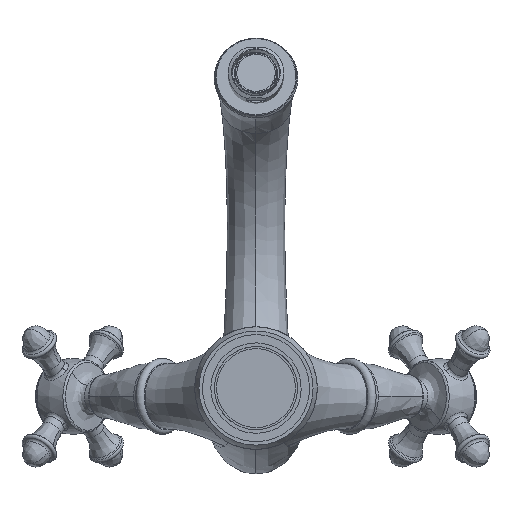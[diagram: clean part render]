
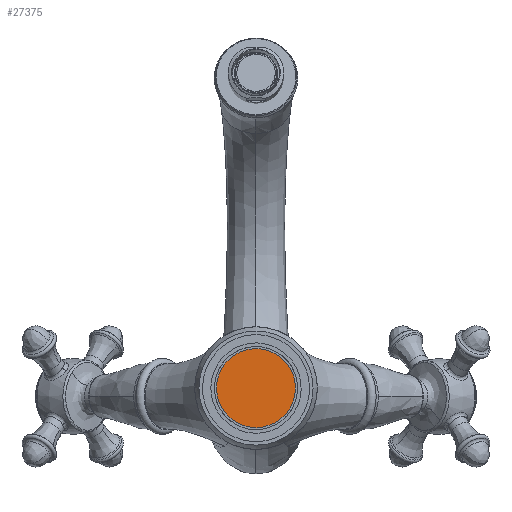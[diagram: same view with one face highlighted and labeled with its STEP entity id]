
A CAD part, front view. The second image highlights one B-rep face of the part: STEP entity #27375.
In plain terms, the highlighted planar face has unit normal (0, -1, 0).
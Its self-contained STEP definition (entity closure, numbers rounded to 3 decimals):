
#4248=B_SPLINE_CURVE_WITH_KNOTS('',3,(#45753,#45754,#45755,#45756,#45757,
#45758,#45759,#45760,#45761,#45762,#45763,#45764,#45765,#45766,#45767,#45768,
#45769,#45770,#45771),.UNSPECIFIED.,.F.,.F.,(4,1,1,1,1,1,1,1,1,1,1,1,1,
1,1,1,4),(-1.,-0.936,-0.873,-0.809,-0.746,
-0.682,-0.618,-0.555,-0.491,-0.43,
-0.368,-0.307,-0.246,-0.184,-0.123,
-0.061,0.),.UNSPECIFIED.);
#4249=B_SPLINE_CURVE_WITH_KNOTS('',3,(#45772,#45773,#45774,#45775,#45776,
#45777,#45778,#45779,#45780,#45781,#45782,#45783,#45784,#45785,#45786,#45787,
#45788,#45789,#45790),.UNSPECIFIED.,.F.,.F.,(4,1,1,1,1,1,1,1,1,1,1,1,1,
1,1,1,4),(-1.,-0.936,-0.873,-0.809,-0.746,
-0.682,-0.618,-0.555,-0.491,-0.43,
-0.368,-0.307,-0.246,-0.184,-0.123,
-0.061,0.),.UNSPECIFIED.);
#5989=FACE_OUTER_BOUND('',#7587,.T.);
#7587=EDGE_LOOP('',(#18693,#18694));
#10995=VERTEX_POINT('',#45751);
#10996=VERTEX_POINT('',#45752);
#14014=EDGE_CURVE('',#10995,#10996,#4248,.T.);
#14015=EDGE_CURVE('',#10995,#10996,#4249,.T.);
#18693=ORIENTED_EDGE('',*,*,#14014,.F.);
#18694=ORIENTED_EDGE('',*,*,#14015,.T.);
#27139=PLANE('',#28998);
#27375=ADVANCED_FACE('',(#5989),#27139,.F.);
#28998=AXIS2_PLACEMENT_3D('',#45750,#31646,#31647);
#31646=DIRECTION('center_axis',(0.,1.,0.));
#31647=DIRECTION('ref_axis',(0.,0.,-1.));
#45750=CARTESIAN_POINT('Origin',(20.05,0.,11.));
#45751=CARTESIAN_POINT('',(0.,0.,-8.25));
#45752=CARTESIAN_POINT('',(0.,0.,30.25));
#45753=CARTESIAN_POINT('Ctrl Pts',(0.,0.,
-8.25));
#45754=CARTESIAN_POINT('Ctrl Pts',(-1.26,0.,
-8.25));
#45755=CARTESIAN_POINT('Ctrl Pts',(-3.773,0.,
-8.));
#45756=CARTESIAN_POINT('Ctrl Pts',(-7.389,0.,
-6.909));
#45757=CARTESIAN_POINT('Ctrl Pts',(-10.719,0.,
-5.134));
#45758=CARTESIAN_POINT('Ctrl Pts',(-13.647,0.,
-2.751));
#45759=CARTESIAN_POINT('Ctrl Pts',(-16.058,0.,
0.166));
#45760=CARTESIAN_POINT('Ctrl Pts',(-17.868,0.,
3.506));
#45761=CARTESIAN_POINT('Ctrl Pts',(-18.99,0.,
7.158));
#45762=CARTESIAN_POINT('Ctrl Pts',(-19.375,0.,
10.942));
#45763=CARTESIAN_POINT('Ctrl Pts',(-19.009,0.,
14.717));
#45764=CARTESIAN_POINT('Ctrl Pts',(-17.933,0.,
18.333));
#45765=CARTESIAN_POINT('Ctrl Pts',(-16.156,0.,
21.689));
#45766=CARTESIAN_POINT('Ctrl Pts',(-13.754,0.,
24.649));
#45767=CARTESIAN_POINT('Ctrl Pts',(-10.806,0.,
27.079));
#45768=CARTESIAN_POINT('Ctrl Pts',(-7.44,0.,
28.892));
#45769=CARTESIAN_POINT('Ctrl Pts',(-3.786,0.,
29.999));
#45770=CARTESIAN_POINT('Ctrl Pts',(-1.26,0.,
30.25));
#45771=CARTESIAN_POINT('Ctrl Pts',(0.,0.,
30.25));
#45772=CARTESIAN_POINT('Ctrl Pts',(0.,0.,
-8.25));
#45773=CARTESIAN_POINT('Ctrl Pts',(1.26,0.,
-8.25));
#45774=CARTESIAN_POINT('Ctrl Pts',(3.773,0.,
-8.));
#45775=CARTESIAN_POINT('Ctrl Pts',(7.389,0.,
-6.909));
#45776=CARTESIAN_POINT('Ctrl Pts',(10.719,0.,
-5.134));
#45777=CARTESIAN_POINT('Ctrl Pts',(13.647,0.,
-2.751));
#45778=CARTESIAN_POINT('Ctrl Pts',(16.058,0.,
0.166));
#45779=CARTESIAN_POINT('Ctrl Pts',(17.868,0.,
3.506));
#45780=CARTESIAN_POINT('Ctrl Pts',(18.99,0.,
7.158));
#45781=CARTESIAN_POINT('Ctrl Pts',(19.375,0.,
10.942));
#45782=CARTESIAN_POINT('Ctrl Pts',(19.009,0.,
14.717));
#45783=CARTESIAN_POINT('Ctrl Pts',(17.933,0.,
18.333));
#45784=CARTESIAN_POINT('Ctrl Pts',(16.156,0.,
21.689));
#45785=CARTESIAN_POINT('Ctrl Pts',(13.754,0.,
24.649));
#45786=CARTESIAN_POINT('Ctrl Pts',(10.806,0.,
27.079));
#45787=CARTESIAN_POINT('Ctrl Pts',(7.44,0.,
28.892));
#45788=CARTESIAN_POINT('Ctrl Pts',(3.786,0.,
29.999));
#45789=CARTESIAN_POINT('Ctrl Pts',(1.26,0.,
30.25));
#45790=CARTESIAN_POINT('Ctrl Pts',(0.,0.,
30.25));
